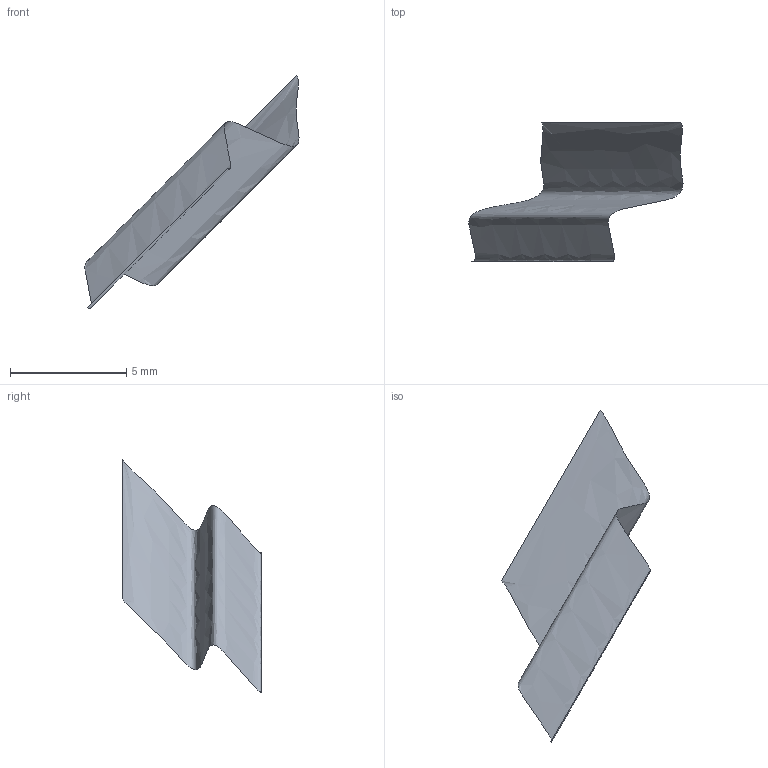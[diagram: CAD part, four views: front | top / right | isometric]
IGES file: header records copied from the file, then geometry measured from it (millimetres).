
Global section: file name: Filename.iges; native system: Open CASCADE 6.6; preprocessor: Open CASCADE IGES processor 6.6; author: admin; date: 20130605.132007; units: millimetre
Bounding box: 9.22 x 6 x 10.03 mm (x, y, z)
Surface area: 80.2 mm2 (no closed solid volume)
Topology: 0 solids, 0 shells, 1 faces, 4 edges, 4 vertices
Faces by surface type: bspline 1
